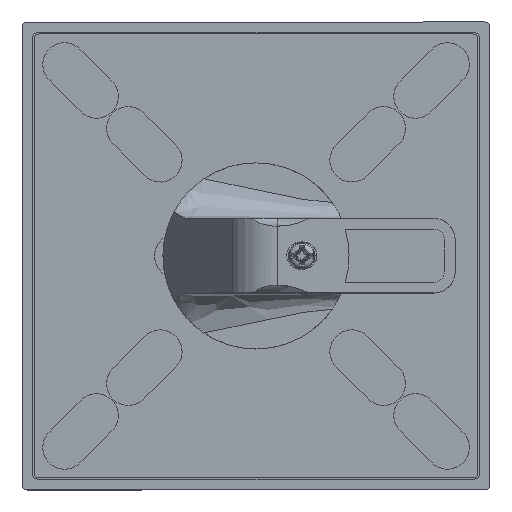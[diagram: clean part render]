
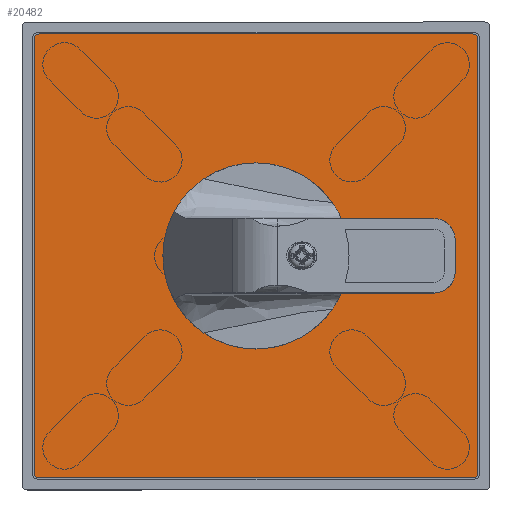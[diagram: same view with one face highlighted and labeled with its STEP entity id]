
A CAD part, top view. The second image highlights one B-rep face of the part: STEP entity #20482.
In plain terms, the highlighted planar face has unit normal (0, 0, 1).
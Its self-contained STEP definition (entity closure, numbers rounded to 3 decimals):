
#2866 = DIRECTION ( 'NONE',  ( 0., 0., 1. ) ) ;
#2986 = DIRECTION ( 'NONE',  ( -1., 0., 0. ) ) ;
#3510 = ORIENTED_EDGE ( 'NONE', *, *, #24768, .T. ) ;
#9347 = DIRECTION ( 'NONE',  ( 0., -1., 0. ) ) ;
#10784 = VECTOR ( 'NONE', #78911, 1000. ) ;
#11001 = AXIS2_PLACEMENT_3D ( 'NONE', #155128, #25081, #124753 ) ;
#14866 = VERTEX_POINT ( 'NONE', #128908 ) ;
#19917 = AXIS2_PLACEMENT_3D ( 'NONE', #88198, #153226, #2986 ) ;
#20482 = ADVANCED_FACE ( 'NONE', ( #100862, #56903 ), #153108, .T. ) ;
#22938 = AXIS2_PLACEMENT_3D ( 'NONE', #184220, #2866, #103231 ) ;
#24768 = EDGE_CURVE ( 'NONE', #191914, #110717, #119601, .T. ) ;
#25081 = DIRECTION ( 'NONE',  ( 0., 0., 1. ) ) ;
#25110 = LINE ( 'NONE', #138985, #100122 ) ;
#25498 = DIRECTION ( 'NONE',  ( 1., 0., 0. ) ) ;
#36258 = VECTOR ( 'NONE', #9347, 1000. ) ;
#37781 = DIRECTION ( 'NONE',  ( 1., 0., 0. ) ) ;
#38761 = CARTESIAN_POINT ( 'NONE',  ( -40.75, 41.75, 422.125 ) ) ;
#40692 = DIRECTION ( 'NONE',  ( 0., 1., 0. ) ) ;
#42831 = CARTESIAN_POINT ( 'NONE',  ( 40.75, 40.75, 422.125 ) ) ;
#45418 = CARTESIAN_POINT ( 'NONE',  ( 40.75, 41.75, 422.125 ) ) ;
#45704 = CARTESIAN_POINT ( 'NONE',  ( -40.75, 41.75, 422.125 ) ) ;
#46346 = CIRCLE ( 'NONE', #11001, 12.5 ) ;
#46517 = DIRECTION ( 'NONE',  ( 0., 0., 1. ) ) ;
#56903 = FACE_BOUND ( 'NONE', #176026, .T. ) ;
#63849 = VECTOR ( 'NONE', #37781, 1000. ) ;
#64080 = VERTEX_POINT ( 'NONE', #159806 ) ;
#64614 = CARTESIAN_POINT ( 'NONE',  ( -40.75, -41.75, 422.125 ) ) ;
#64682 = LINE ( 'NONE', #72965, #36258 ) ;
#68476 = CARTESIAN_POINT ( 'NONE',  ( 0., 0., 422.125 ) ) ;
#72965 = CARTESIAN_POINT ( 'NONE',  ( -41.75, 40.75, 422.125 ) ) ;
#78911 = DIRECTION ( 'NONE',  ( -1., 0., 0. ) ) ;
#83092 = CIRCLE ( 'NONE', #193294, 1. ) ;
#84408 = DIRECTION ( 'NONE',  ( 0., 0., 1. ) ) ;
#85341 = ORIENTED_EDGE ( 'NONE', *, *, #180159, .F. ) ;
#88198 = CARTESIAN_POINT ( 'NONE',  ( 40.75, -40.75, 422.125 ) ) ;
#89732 = LINE ( 'NONE', #189395, #63849 ) ;
#91027 = CARTESIAN_POINT ( 'NONE',  ( 41.75, 40.75, 422.125 ) ) ;
#91944 = EDGE_CURVE ( 'NONE', #14866, #208494, #46346, .T. ) ;
#93274 = CARTESIAN_POINT ( 'NONE',  ( -40.75, 40.75, 422.125 ) ) ;
#96194 = LINE ( 'NONE', #45704, #10784 ) ;
#97009 = DIRECTION ( 'NONE',  ( -1., 0., 0. ) ) ;
#97363 = ORIENTED_EDGE ( 'NONE', *, *, #138084, .T. ) ;
#100122 = VECTOR ( 'NONE', #40692, 1000. ) ;
#100862 = FACE_OUTER_BOUND ( 'NONE', #182241, .T. ) ;
#103231 = DIRECTION ( 'NONE',  ( 1., 0., 0. ) ) ;
#107800 = DIRECTION ( 'NONE',  ( 0., 0., 1. ) ) ;
#107958 = VERTEX_POINT ( 'NONE', #38761 ) ;
#110717 = VERTEX_POINT ( 'NONE', #45418 ) ;
#112154 = EDGE_CURVE ( 'NONE', #107958, #166490, #83092, .T. ) ;
#112453 = EDGE_CURVE ( 'NONE', #166490, #196920, #64682, .T. ) ;
#119601 = CIRCLE ( 'NONE', #205204, 1. ) ;
#124753 = DIRECTION ( 'NONE',  ( 1., 0., 0. ) ) ;
#128160 = CARTESIAN_POINT ( 'NONE',  ( -40.75, -40.75, 422.125 ) ) ;
#128908 = CARTESIAN_POINT ( 'NONE',  ( 12.5, 0., 422.125 ) ) ;
#132230 = VERTEX_POINT ( 'NONE', #64614 ) ;
#132658 = AXIS2_PLACEMENT_3D ( 'NONE', #68476, #84408, #168901 ) ;
#136688 = CIRCLE ( 'NONE', #160738, 1. ) ;
#138084 = EDGE_CURVE ( 'NONE', #196920, #132230, #136688, .T. ) ;
#138408 = EDGE_CURVE ( 'NONE', #64080, #213303, #151793, .T. ) ;
#138985 = CARTESIAN_POINT ( 'NONE',  ( 41.75, 40.75, 422.125 ) ) ;
#142523 = CARTESIAN_POINT ( 'NONE',  ( 41.75, -40.75, 422.125 ) ) ;
#143177 = DIRECTION ( 'NONE',  ( -1., 0., 0. ) ) ;
#144036 = CARTESIAN_POINT ( 'NONE',  ( -41.75, 40.75, 422.125 ) ) ;
#145126 = ORIENTED_EDGE ( 'NONE', *, *, #91944, .F. ) ;
#151760 = ORIENTED_EDGE ( 'NONE', *, *, #138408, .T. ) ;
#151793 = CIRCLE ( 'NONE', #19917, 1. ) ;
#153108 = PLANE ( 'NONE',  #22938 ) ;
#153226 = DIRECTION ( 'NONE',  ( 0., 0., 1. ) ) ;
#154997 = EDGE_CURVE ( 'NONE', #132230, #64080, #89732, .T. ) ;
#155128 = CARTESIAN_POINT ( 'NONE',  ( 0., 0., 422.125 ) ) ;
#155349 = CARTESIAN_POINT ( 'NONE',  ( -41.75, -40.75, 422.125 ) ) ;
#159806 = CARTESIAN_POINT ( 'NONE',  ( 40.75, -41.75, 422.125 ) ) ;
#160738 = AXIS2_PLACEMENT_3D ( 'NONE', #128160, #46517, #97009 ) ;
#166490 = VERTEX_POINT ( 'NONE', #144036 ) ;
#167427 = CARTESIAN_POINT ( 'NONE',  ( -12.5, 0., 422.125 ) ) ;
#168901 = DIRECTION ( 'NONE',  ( 1., 0., 0. ) ) ;
#176026 = EDGE_LOOP ( 'NONE', ( #85341, #145126 ) ) ;
#178988 = ORIENTED_EDGE ( 'NONE', *, *, #198587, .T. ) ;
#180159 = EDGE_CURVE ( 'NONE', #208494, #14866, #199289, .T. ) ;
#182080 = ORIENTED_EDGE ( 'NONE', *, *, #154997, .T. ) ;
#182241 = EDGE_LOOP ( 'NONE', ( #3510, #211892, #191775, #198962, #97363, #182080, #151760, #178988 ) ) ;
#184220 = CARTESIAN_POINT ( 'NONE',  ( 40.75, 40.75, 422.125 ) ) ;
#189395 = CARTESIAN_POINT ( 'NONE',  ( -40.75, -41.75, 422.125 ) ) ;
#191775 = ORIENTED_EDGE ( 'NONE', *, *, #112154, .T. ) ;
#191914 = VERTEX_POINT ( 'NONE', #91027 ) ;
#193294 = AXIS2_PLACEMENT_3D ( 'NONE', #93274, #208851, #143177 ) ;
#196920 = VERTEX_POINT ( 'NONE', #155349 ) ;
#198587 = EDGE_CURVE ( 'NONE', #213303, #191914, #25110, .T. ) ;
#198962 = ORIENTED_EDGE ( 'NONE', *, *, #112453, .T. ) ;
#199289 = CIRCLE ( 'NONE', #132658, 12.5 ) ;
#205204 = AXIS2_PLACEMENT_3D ( 'NONE', #42831, #107800, #25498 ) ;
#208494 = VERTEX_POINT ( 'NONE', #167427 ) ;
#208851 = DIRECTION ( 'NONE',  ( 0., 0., 1. ) ) ;
#211892 = ORIENTED_EDGE ( 'NONE', *, *, #213391, .T. ) ;
#213303 = VERTEX_POINT ( 'NONE', #142523 ) ;
#213391 = EDGE_CURVE ( 'NONE', #110717, #107958, #96194, .T. ) ;
